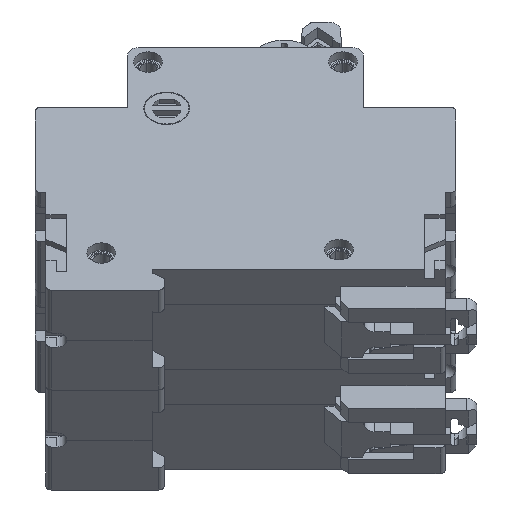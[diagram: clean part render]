
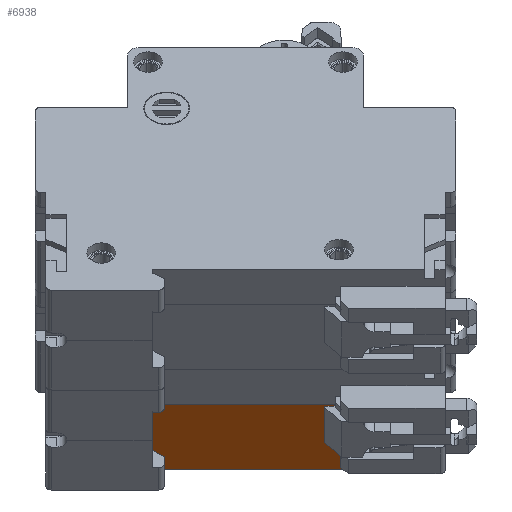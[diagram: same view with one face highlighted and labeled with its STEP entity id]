
A CAD part, left-side view. The second image highlights one B-rep face of the part: STEP entity #6938.
In plain terms, the highlighted planar face has unit normal (-0.707, 0, -0.707) as drawn and (0, -1, 0) by its records, which use the part's own axes.
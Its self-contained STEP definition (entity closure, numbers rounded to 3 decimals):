
#44 = EDGE_CURVE ( 'NONE', #5597, #18854, #7981, .T. ) ;
#229 = VECTOR ( 'NONE', #10461, 1000. ) ;
#278 = ORIENTED_EDGE ( 'NONE', *, *, #11295, .T. ) ;
#366 = CARTESIAN_POINT ( 'NONE',  ( -15.65, -60., 9.1 ) ) ;
#446 = CARTESIAN_POINT ( 'NONE',  ( 1.85, -60., 6.6 ) ) ;
#486 = ORIENTED_EDGE ( 'NONE', *, *, #6950, .F. ) ;
#659 = DIRECTION ( 'NONE',  ( 0., 0., -1. ) ) ;
#966 = VERTEX_POINT ( 'NONE', #3168 ) ;
#1118 = VERTEX_POINT ( 'NONE', #15877 ) ;
#1136 = LINE ( 'NONE', #7389, #10619 ) ;
#1174 = CARTESIAN_POINT ( 'NONE',  ( -13.65, -60., 11.2 ) ) ;
#1474 = DIRECTION ( 'NONE',  ( -1., 0., 0. ) ) ;
#1682 = CARTESIAN_POINT ( 'NONE',  ( 42.85, -60., -4. ) ) ;
#1779 = CARTESIAN_POINT ( 'NONE',  ( -15.65, -60., 13.5 ) ) ;
#1793 = LINE ( 'NONE', #20018, #18283 ) ;
#1894 = DIRECTION ( 'NONE',  ( 0., 0., -1. ) ) ;
#1962 = ORIENTED_EDGE ( 'NONE', *, *, #20786, .T. ) ;
#2177 = LINE ( 'NONE', #3575, #6494 ) ;
#2425 = CARTESIAN_POINT ( 'NONE',  ( 40.35, -60., 0. ) ) ;
#2859 = VERTEX_POINT ( 'NONE', #18029 ) ;
#3137 = LINE ( 'NONE', #446, #6113 ) ;
#3168 = CARTESIAN_POINT ( 'NONE',  ( 40.35, -60., 13.5 ) ) ;
#3255 = CARTESIAN_POINT ( 'NONE',  ( 4.35, -60., 9.1 ) ) ;
#3297 = ORIENTED_EDGE ( 'NONE', *, *, #44, .T. ) ;
#3449 = ORIENTED_EDGE ( 'NONE', *, *, #22070, .T. ) ;
#3575 = CARTESIAN_POINT ( 'NONE',  ( 40.35, -60., 13.5 ) ) ;
#3756 = FACE_OUTER_BOUND ( 'NONE', #7678, .T. ) ;
#3968 = EDGE_CURVE ( 'NONE', #1118, #13090, #5244, .T. ) ;
#4114 = DIRECTION ( 'NONE',  ( 1., 0., 0. ) ) ;
#4464 = DIRECTION ( 'NONE',  ( 1., 0., 0. ) ) ;
#4633 = VECTOR ( 'NONE', #4114, 1000. ) ;
#4757 = ORIENTED_EDGE ( 'NONE', *, *, #3968, .T. ) ;
#5244 = LINE ( 'NONE', #20823, #15029 ) ;
#5296 = LINE ( 'NONE', #2425, #17216 ) ;
#5597 = VERTEX_POINT ( 'NONE', #1779 ) ;
#5599 = ORIENTED_EDGE ( 'NONE', *, *, #6429, .T. ) ;
#5655 = AXIS2_PLACEMENT_3D ( 'NONE', #8962, #14334, #14175 ) ;
#5723 = EDGE_CURVE ( 'NONE', #18854, #15840, #1136, .T. ) ;
#5778 = EDGE_CURVE ( 'NONE', #19778, #966, #17354, .T. ) ;
#5935 = ORIENTED_EDGE ( 'NONE', *, *, #8434, .T. ) ;
#6090 = CARTESIAN_POINT ( 'NONE',  ( 40.35, -60., 11.2 ) ) ;
#6113 = VECTOR ( 'NONE', #7161, 1000. ) ;
#6245 = VERTEX_POINT ( 'NONE', #17549 ) ;
#6332 = DIRECTION ( 'NONE',  ( 0., 0., -1. ) ) ;
#6429 = EDGE_CURVE ( 'NONE', #8075, #10206, #16529, .T. ) ;
#6494 = VECTOR ( 'NONE', #12141, 1000. ) ;
#6570 = VERTEX_POINT ( 'NONE', #13506 ) ;
#6667 = EDGE_CURVE ( 'NONE', #6967, #1118, #14627, .T. ) ;
#6706 = EDGE_CURVE ( 'NONE', #966, #10033, #2177, .T. ) ;
#6918 = CARTESIAN_POINT ( 'NONE',  ( -11.65, -60., 13.5 ) ) ;
#6938 = ADVANCED_FACE ( 'NONE', ( #3756 ), #12650, .F. ) ;
#6950 = EDGE_CURVE ( 'NONE', #14741, #20427, #12165, .T. ) ;
#6967 = VERTEX_POINT ( 'NONE', #16511 ) ;
#7161 = DIRECTION ( 'NONE',  ( 0., 0., -1. ) ) ;
#7389 = CARTESIAN_POINT ( 'NONE',  ( -15.65, -60., 9.1 ) ) ;
#7577 = DIRECTION ( 'NONE',  ( 0., 0., -1. ) ) ;
#7678 = EDGE_LOOP ( 'NONE', ( #1962, #21939, #5935, #13471, #14044, #9269, #5599, #3449, #19818, #3297, #14649, #17819, #486, #15892, #15620, #4757, #278, #19008 ) ) ;
#7981 = LINE ( 'NONE', #16739, #18242 ) ;
#8075 = VERTEX_POINT ( 'NONE', #21956 ) ;
#8348 = CARTESIAN_POINT ( 'NONE',  ( 1.85, -60., 6.6 ) ) ;
#8434 = EDGE_CURVE ( 'NONE', #6245, #10033, #5296, .T. ) ;
#8518 = EDGE_CURVE ( 'NONE', #12013, #9040, #14821, .T. ) ;
#8962 = CARTESIAN_POINT ( 'NONE',  ( 40.35, -60., 13.5 ) ) ;
#9040 = VERTEX_POINT ( 'NONE', #9310 ) ;
#9191 = CARTESIAN_POINT ( 'NONE',  ( 40.35, -60., 13.5 ) ) ;
#9203 = CARTESIAN_POINT ( 'NONE',  ( 40.35, -60., 13.5 ) ) ;
#9217 = LINE ( 'NONE', #15767, #9775 ) ;
#9269 = ORIENTED_EDGE ( 'NONE', *, *, #14814, .T. ) ;
#9270 = DIRECTION ( 'NONE',  ( 1., 0., 0. ) ) ;
#9276 = CARTESIAN_POINT ( 'NONE',  ( 4.35, -60., 6.6 ) ) ;
#9278 = DIRECTION ( 'NONE',  ( 1., 0., 0. ) ) ;
#9310 = CARTESIAN_POINT ( 'NONE',  ( 1.35, -60., -4. ) ) ;
#9408 = CARTESIAN_POINT ( 'NONE',  ( -15.65, -60., 0. ) ) ;
#9463 = EDGE_CURVE ( 'NONE', #5597, #2859, #20953, .T. ) ;
#9511 = LINE ( 'NONE', #22062, #19762 ) ;
#9775 = VECTOR ( 'NONE', #19682, 1000. ) ;
#10033 = VERTEX_POINT ( 'NONE', #14383 ) ;
#10114 = CARTESIAN_POINT ( 'NONE',  ( 4.35, -60., 6.2 ) ) ;
#10206 = VERTEX_POINT ( 'NONE', #1174 ) ;
#10227 = VECTOR ( 'NONE', #14982, 1000. ) ;
#10307 = VECTOR ( 'NONE', #11114, 1000. ) ;
#10461 = DIRECTION ( 'NONE',  ( 1., 0., 0. ) ) ;
#10619 = VECTOR ( 'NONE', #9278, 1000. ) ;
#11002 = CARTESIAN_POINT ( 'NONE',  ( -11.65, -60., 13.5 ) ) ;
#11114 = DIRECTION ( 'NONE',  ( -1., 0., 0. ) ) ;
#11295 = EDGE_CURVE ( 'NONE', #13090, #12013, #9511, .T. ) ;
#11607 = LINE ( 'NONE', #1682, #229 ) ;
#12013 = VERTEX_POINT ( 'NONE', #14397 ) ;
#12141 = DIRECTION ( 'NONE',  ( 0., 0., -1. ) ) ;
#12161 = LINE ( 'NONE', #17722, #21036 ) ;
#12165 = LINE ( 'NONE', #14851, #12702 ) ;
#12335 = VECTOR ( 'NONE', #7577, 1000. ) ;
#12650 = PLANE ( 'NONE',  #5655 ) ;
#12702 = VECTOR ( 'NONE', #4464, 1000. ) ;
#13090 = VERTEX_POINT ( 'NONE', #9408 ) ;
#13471 = ORIENTED_EDGE ( 'NONE', *, *, #6706, .F. ) ;
#13506 = CARTESIAN_POINT ( 'NONE',  ( 42.85, -60., -4. ) ) ;
#13758 = EDGE_CURVE ( 'NONE', #14741, #6967, #3137, .T. ) ;
#14044 = ORIENTED_EDGE ( 'NONE', *, *, #5778, .F. ) ;
#14175 = DIRECTION ( 'NONE',  ( -1., 0., 0. ) ) ;
#14334 = DIRECTION ( 'NONE',  ( 0., 1., 0. ) ) ;
#14383 = CARTESIAN_POINT ( 'NONE',  ( 40.35, -60., 0. ) ) ;
#14397 = CARTESIAN_POINT ( 'NONE',  ( 1.35, -60., 0. ) ) ;
#14526 = DIRECTION ( 'NONE',  ( -1., 0., 0. ) ) ;
#14627 = LINE ( 'NONE', #10114, #20004 ) ;
#14649 = ORIENTED_EDGE ( 'NONE', *, *, #5723, .T. ) ;
#14741 = VERTEX_POINT ( 'NONE', #8348 ) ;
#14814 = EDGE_CURVE ( 'NONE', #19778, #8075, #15051, .T. ) ;
#14821 = LINE ( 'NONE', #18358, #10227 ) ;
#14851 = CARTESIAN_POINT ( 'NONE',  ( 4.35, -60., 6.6 ) ) ;
#14982 = DIRECTION ( 'NONE',  ( 0., 0., -1. ) ) ;
#15029 = VECTOR ( 'NONE', #1894, 1000. ) ;
#15051 = LINE ( 'NONE', #11002, #12335 ) ;
#15620 = ORIENTED_EDGE ( 'NONE', *, *, #6667, .T. ) ;
#15767 = CARTESIAN_POINT ( 'NONE',  ( -13.65, -60., 13.5 ) ) ;
#15840 = VERTEX_POINT ( 'NONE', #3255 ) ;
#15877 = CARTESIAN_POINT ( 'NONE',  ( -15.65, -60., 6.2 ) ) ;
#15892 = ORIENTED_EDGE ( 'NONE', *, *, #13758, .T. ) ;
#16301 = EDGE_CURVE ( 'NONE', #15840, #20427, #1793, .T. ) ;
#16511 = CARTESIAN_POINT ( 'NONE',  ( 1.85, -60., 6.2 ) ) ;
#16529 = LINE ( 'NONE', #6090, #10307 ) ;
#16739 = CARTESIAN_POINT ( 'NONE',  ( -15.65, -60., 13.5 ) ) ;
#16928 = VECTOR ( 'NONE', #9270, 1000. ) ;
#17216 = VECTOR ( 'NONE', #14526, 1000. ) ;
#17354 = LINE ( 'NONE', #9203, #4633 ) ;
#17549 = CARTESIAN_POINT ( 'NONE',  ( 42.85, -60., 0. ) ) ;
#17722 = CARTESIAN_POINT ( 'NONE',  ( 42.85, -60., 91.543 ) ) ;
#17819 = ORIENTED_EDGE ( 'NONE', *, *, #16301, .T. ) ;
#18029 = CARTESIAN_POINT ( 'NONE',  ( -13.65, -60., 13.5 ) ) ;
#18242 = VECTOR ( 'NONE', #18467, 1000. ) ;
#18283 = VECTOR ( 'NONE', #6332, 1000. ) ;
#18358 = CARTESIAN_POINT ( 'NONE',  ( 1.35, -60., 91.543 ) ) ;
#18467 = DIRECTION ( 'NONE',  ( 0., 0., -1. ) ) ;
#18854 = VERTEX_POINT ( 'NONE', #366 ) ;
#19008 = ORIENTED_EDGE ( 'NONE', *, *, #8518, .T. ) ;
#19682 = DIRECTION ( 'NONE',  ( 0., 0., 1. ) ) ;
#19762 = VECTOR ( 'NONE', #20290, 1000. ) ;
#19778 = VERTEX_POINT ( 'NONE', #6918 ) ;
#19818 = ORIENTED_EDGE ( 'NONE', *, *, #9463, .F. ) ;
#20004 = VECTOR ( 'NONE', #1474, 1000. ) ;
#20018 = CARTESIAN_POINT ( 'NONE',  ( 4.35, -60., 13.5 ) ) ;
#20290 = DIRECTION ( 'NONE',  ( 1., 0., 0. ) ) ;
#20415 = EDGE_CURVE ( 'NONE', #6245, #6570, #12161, .T. ) ;
#20427 = VERTEX_POINT ( 'NONE', #9276 ) ;
#20786 = EDGE_CURVE ( 'NONE', #9040, #6570, #11607, .T. ) ;
#20823 = CARTESIAN_POINT ( 'NONE',  ( -15.65, -60., 33.858 ) ) ;
#20953 = LINE ( 'NONE', #9191, #16928 ) ;
#21036 = VECTOR ( 'NONE', #659, 1000. ) ;
#21939 = ORIENTED_EDGE ( 'NONE', *, *, #20415, .F. ) ;
#21956 = CARTESIAN_POINT ( 'NONE',  ( -11.65, -60., 11.2 ) ) ;
#22062 = CARTESIAN_POINT ( 'NONE',  ( 1.35, -60., 0. ) ) ;
#22070 = EDGE_CURVE ( 'NONE', #10206, #2859, #9217, .T. ) ;
